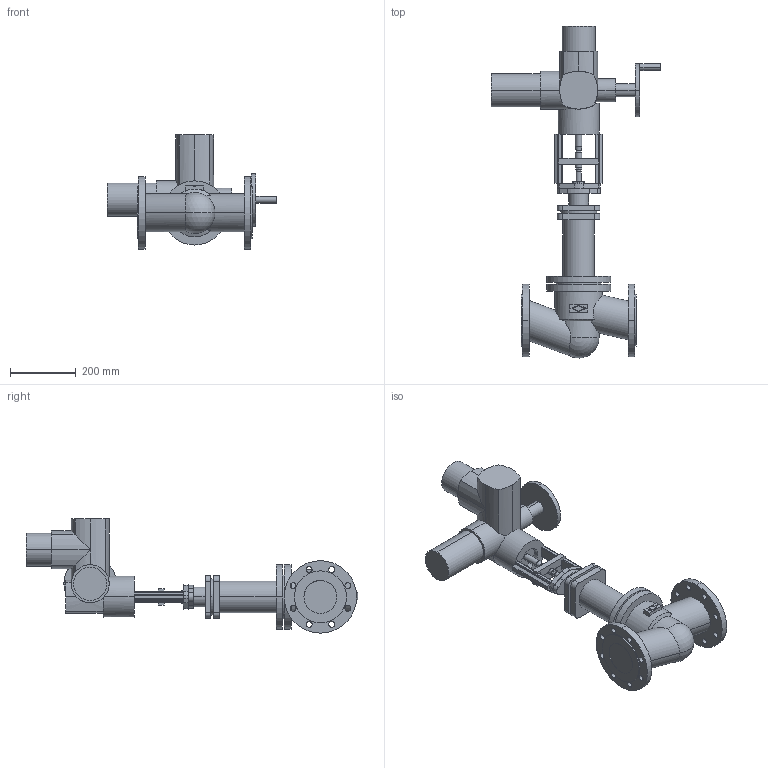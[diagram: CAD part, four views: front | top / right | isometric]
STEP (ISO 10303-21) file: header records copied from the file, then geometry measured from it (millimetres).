
FILE_DESCRIPTION(('OneSpaceDesigner STEP Export'),'2;1');
FILE_NAME('c000003135.stp','2007-01-19T11:26:33',(''),(''),'OneSpace Designer STEP processor for AP214 (Solid Model)','OneSpace Designer 14.00B 27-May-2006 (C) CoCreate Software GmbH','');
FILE_SCHEMA(('AUTOMOTIVE_DESIGN { 1 0 10303 214 1 1 1 1 }'));
Length unit declared in the file: millimetre
Products named in the file (2): 1; 2
Bounding box: 514 x 1008.17 x 347 mm (x, y, z)
Volume: 18145107.9 mm3; surface area: 984711.8 mm2
Topology: 2 solids, 2 shells, 316 faces, 809 edges, 516 vertices
Faces by surface type: cylinder 162, plane 146, cone 6, sphere 2
Entity records: 10162 total; most frequent: CARTESIAN_POINT 2094, ORIENTED_EDGE 1614, DIRECTION 1369, SURFACE_CURVE 807, EDGE_CURVE 807, VERTEX_POINT 516, AXIS2_PLACEMENT_3D 468, VECTOR 433
